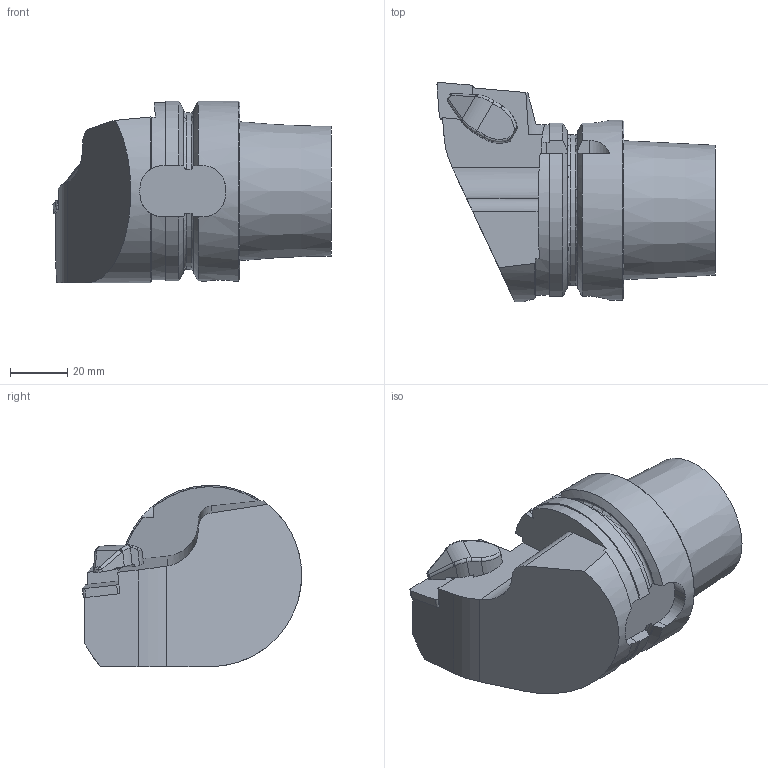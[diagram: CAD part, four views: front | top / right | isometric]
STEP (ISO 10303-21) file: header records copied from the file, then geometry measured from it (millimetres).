
FILE_DESCRIPTION((''),'2;1');
FILE_NAME('C:\Users\drh\Desktop\3D tool tutorial\Holder.stp','2018-05-09T13:31:58',(''),(''),'STEP Write','Mastercam 2019 ... CNC Software, Inc.','');
FILE_SCHEMA(('AUTOMOTIVE_DESIGN'));
Length unit declared in the file: millimetre
Products named in the file (1): None
Bounding box: 97.35 x 76.75 x 63.47 mm (x, y, z)
Volume: 212779.6 mm3; surface area: 25150.5 mm2
Topology: 1 solids, 1 shells, 125 faces, 339 edges, 219 vertices
Faces by surface type: plane 60, cylinder 40, cone 10, torus 7, bspline 6, sphere 2
Full cylindrical faces by diameter (mm): 10.045 x1, 62.94 x1
Entity records: 4938 total; most frequent: CARTESIAN_POINT 1748, ORIENTED_EDGE 668, DIRECTION 600, EDGE_CURVE 334, VERTEX_POINT 219, AXIS2_PLACEMENT_3D 217, VECTOR 166, LINE 166
